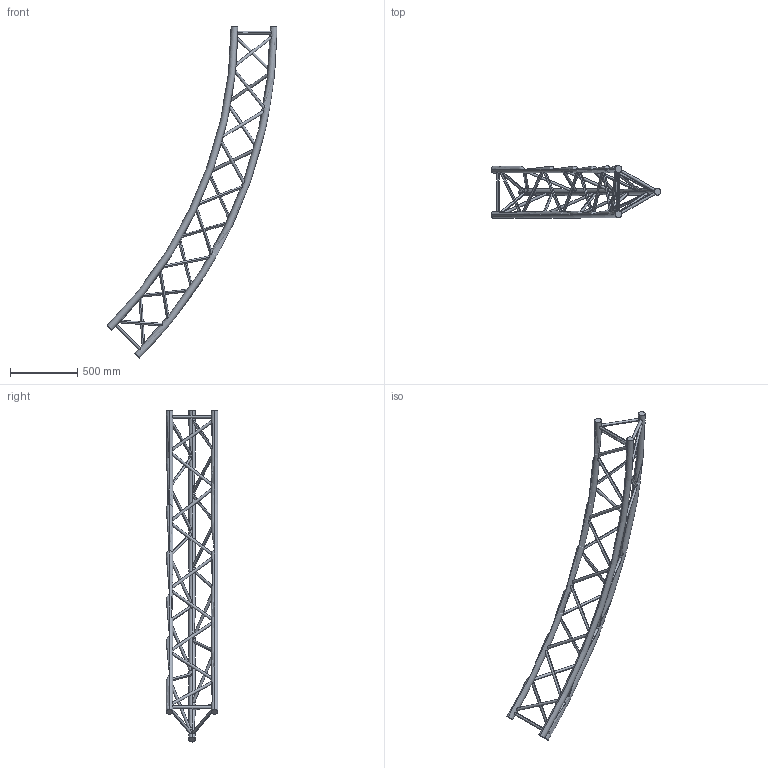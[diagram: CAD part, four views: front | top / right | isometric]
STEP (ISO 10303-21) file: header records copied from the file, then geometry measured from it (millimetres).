
FILE_DESCRIPTION (( 'STEP AP203' ), '1' );
FILE_NAME ('SXC39700PE.STEP', '2009-10-21T12:18:15', ( 'CEDIA' ), ( 'CEDIA INDUSTRIE' ), 'SwSTEP 2.0', 'SolidWorks 2009', '' );
FILE_SCHEMA (( 'CONFIG_CONTROL_DESIGN' ));
Length unit declared in the file: millimetre
Products named in the file (1): SXC39700PE
Bounding box: 1266.85 x 387 x 2474.87 mm (x, y, z)
Volume: 18844618.3 mm3; surface area: 1936130 mm2
Topology: 1 solids, 1 shells, 78 faces, 222 edges, 148 vertices
Faces by surface type: cylinder 66, torus 6, plane 6
Entity records: 8918 total; most frequent: CARTESIAN_POINT 6935, ORIENTED_EDGE 444, DIRECTION 262, EDGE_CURVE 222, VERTEX_POINT 148, EDGE_LOOP 142, B_SPLINE_CURVE_WITH_KNOTS 137, AXIS2_PLACEMENT_3D 98
